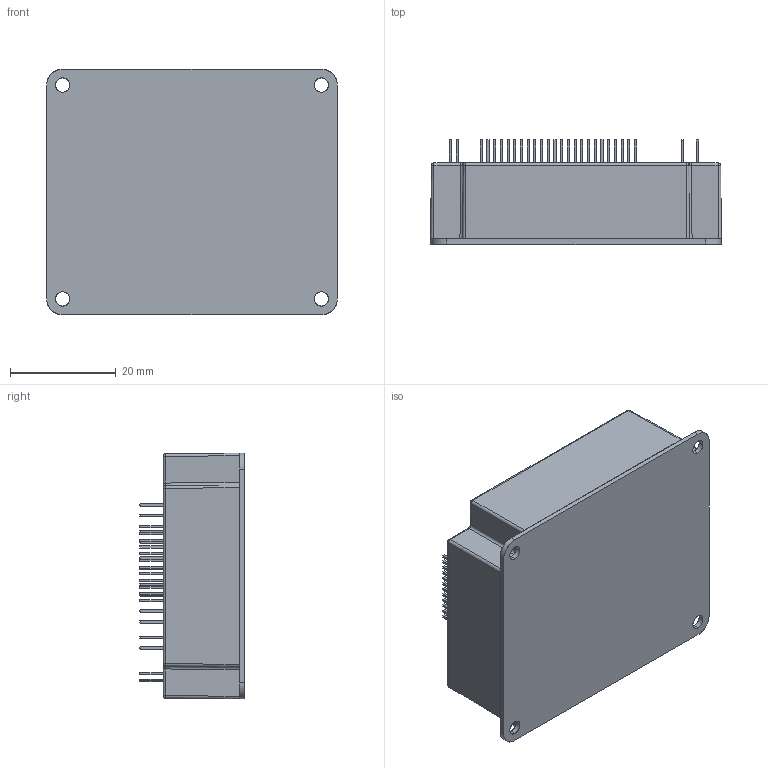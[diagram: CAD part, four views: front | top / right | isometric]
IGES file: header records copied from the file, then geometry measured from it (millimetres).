
Start section: SolidWorks IGES file using analytic representation for surfaces
Global section: file name: E:\marketing\manuals\gold-whistle\solid\G whistle_main V2\gold-whistle.IGS; native system: SolidWorks 2012; preprocessor: SolidWorks 2012; author: shlomo; date: 120423.112634; units: millimetre
Bounding box: 55.04 x 19.83 x 46.54 mm (x, y, z)
Surface area: 18188.5 mm2 (no closed solid volume)
Topology: 0 solids, 0 shells, 1655 faces, 9528 edges, 9528 vertices
Faces by surface type: bspline 1549, revolution 106
